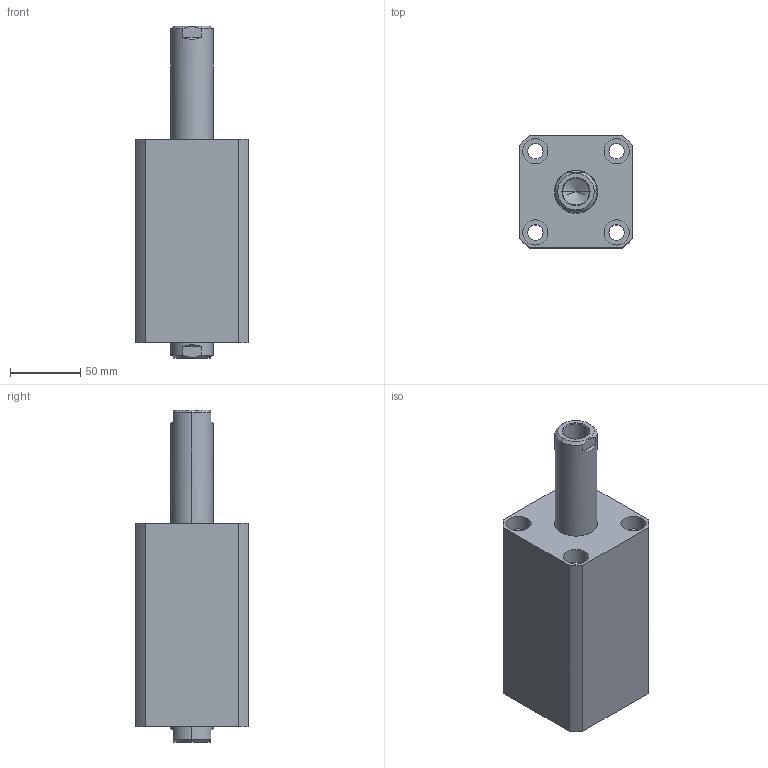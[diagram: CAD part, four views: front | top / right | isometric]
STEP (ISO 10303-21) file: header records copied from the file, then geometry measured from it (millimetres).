
FILE_DESCRIPTION (( 'STEP AP203' ), '1' );
FILE_NAME ('CHTB-SW50-70N.STEP', '2018-05-21T06:52:16', ( '' ), ( '' ), 'SwSTEP 2.0', 'SolidWorks 2015', '' );
FILE_SCHEMA (( 'CONFIG_CONTROL_DESIGN' ));
Length unit declared in the file: millimetre
Products named in the file (4): 活塞杆SW50-70N; ヶ裔; 掛极SW50-70N; CHTB-SW50-70N
Assembly tree (3 placements, depth 2):
  CHTB-SW50-70N
    掛极SW50-70N
    活塞杆SW50-70N
    ヶ裔
Bounding box: 80 x 80 x 237 mm (x, y, z)
Volume: 796667.5 mm3; surface area: 147327.5 mm2
Topology: 3 solids, 3 shells, 225 faces, 528 edges, 331 vertices
Faces by surface type: cylinder 118, plane 46, cone 33, torus 24, bspline 4
Entity records: 9698 total; most frequent: CARTESIAN_POINT 4235, DIRECTION 1104, ORIENTED_EDGE 1040, EDGE_CURVE 520, AXIS2_PLACEMENT_3D 462, VERTEX_POINT 331, EDGE_LOOP 271, CIRCLE 235
